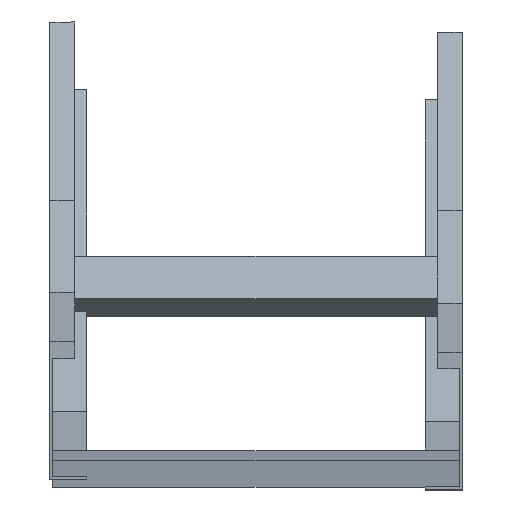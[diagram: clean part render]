
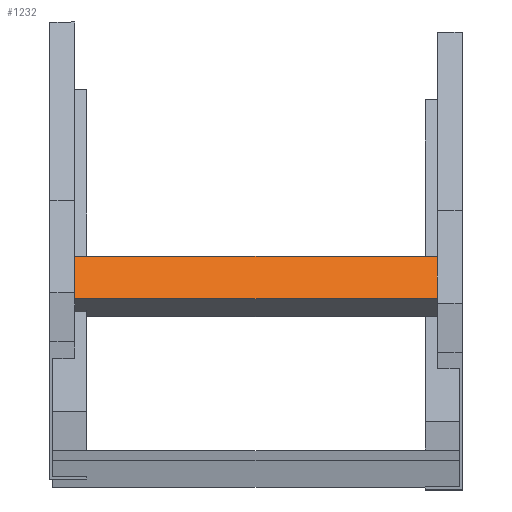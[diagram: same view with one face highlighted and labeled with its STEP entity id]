
A CAD part, top view. The second image highlights one B-rep face of the part: STEP entity #1232.
In plain terms, the highlighted planar face has unit normal (0, 0.643, 0.766) as drawn and (0, 1, 0) by its records, which use the part's own axes.
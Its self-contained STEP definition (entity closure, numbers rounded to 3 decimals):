
#31 = EDGE_LOOP ( 'NONE', ( #1517, #218, #577, #686 ) ) ;
#218 = ORIENTED_EDGE ( 'NONE', *, *, #1000, .F. ) ;
#221 = DIRECTION ( 'NONE',  ( -1., 0., 0. ) ) ;
#284 = CARTESIAN_POINT ( 'NONE',  ( -148., 20., -20.25 ) ) ;
#370 = VECTOR ( 'NONE', #832, 1000. ) ;
#379 = EDGE_CURVE ( 'NONE', #1357, #931, #1020, .T. ) ;
#417 = CARTESIAN_POINT ( 'NONE',  ( 148., 20., 20.25 ) ) ;
#461 = DIRECTION ( 'NONE',  ( 0., 0., -1. ) ) ;
#468 = CARTESIAN_POINT ( 'NONE',  ( -148., 20., 20.25 ) ) ;
#499 = DIRECTION ( 'NONE',  ( -1., 0., 0. ) ) ;
#529 = CARTESIAN_POINT ( 'NONE',  ( 148., 20., 20.25 ) ) ;
#540 = FACE_OUTER_BOUND ( 'NONE', #31, .T. ) ;
#573 = CARTESIAN_POINT ( 'NONE',  ( -148., 20., 20.25 ) ) ;
#577 = ORIENTED_EDGE ( 'NONE', *, *, #1003, .F. ) ;
#596 = VECTOR ( 'NONE', #499, 1000. ) ;
#613 = VECTOR ( 'NONE', #1135, 1000. ) ;
#625 = LINE ( 'NONE', #1425, #613 ) ;
#686 = ORIENTED_EDGE ( 'NONE', *, *, #379, .T. ) ;
#709 = CARTESIAN_POINT ( 'NONE',  ( 148., 20., -20.25 ) ) ;
#713 = EDGE_CURVE ( 'NONE', #931, #1293, #1238, .T. ) ;
#757 = CARTESIAN_POINT ( 'NONE',  ( 148., 20., 20.25 ) ) ;
#832 = DIRECTION ( 'NONE',  ( 0., 0., 1. ) ) ;
#900 = LINE ( 'NONE', #757, #1573 ) ;
#931 = VERTEX_POINT ( 'NONE', #284 ) ;
#1000 = EDGE_CURVE ( 'NONE', #1555, #1293, #900, .T. ) ;
#1003 = EDGE_CURVE ( 'NONE', #1357, #1555, #625, .T. ) ;
#1020 = LINE ( 'NONE', #1137, #596 ) ;
#1135 = DIRECTION ( 'NONE',  ( 0., 0., 1. ) ) ;
#1137 = CARTESIAN_POINT ( 'NONE',  ( 148., 20., -20.25 ) ) ;
#1232 = ADVANCED_FACE ( 'NONE', ( #540 ), #1585, .F. ) ;
#1238 = LINE ( 'NONE', #573, #370 ) ;
#1293 = VERTEX_POINT ( 'NONE', #468 ) ;
#1357 = VERTEX_POINT ( 'NONE', #709 ) ;
#1425 = CARTESIAN_POINT ( 'NONE',  ( 148., 20., 20.25 ) ) ;
#1453 = DIRECTION ( 'NONE',  ( 0., -1., 0. ) ) ;
#1517 = ORIENTED_EDGE ( 'NONE', *, *, #713, .T. ) ;
#1542 = AXIS2_PLACEMENT_3D ( 'NONE', #417, #1453, #461 ) ;
#1555 = VERTEX_POINT ( 'NONE', #529 ) ;
#1573 = VECTOR ( 'NONE', #221, 1000. ) ;
#1585 = PLANE ( 'NONE',  #1542 ) ;
